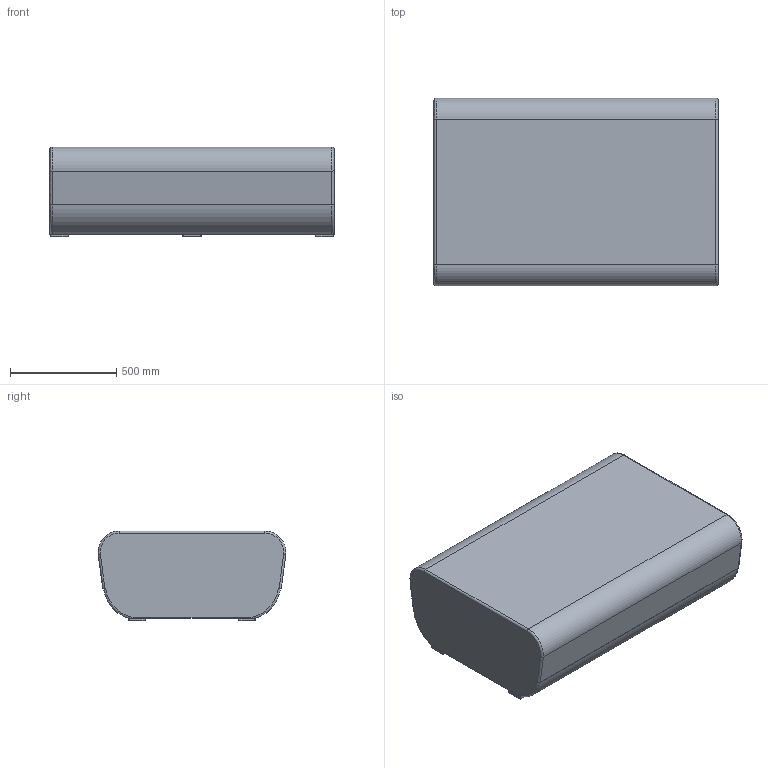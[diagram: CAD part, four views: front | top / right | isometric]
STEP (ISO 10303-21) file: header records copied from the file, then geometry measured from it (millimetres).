
FILE_DESCRIPTION(/* description */ (''),/* implementation_level */ '2;1');
FILE_NAME(/* name */ 'OPA051~1',/* time_stamp */ '2015-09-28T21:32:45+02:00',/* author */ (''),/* organization */ (''),/* preprocessor_version */ 'ST-DEVELOPER v15',/* originating_system */ '',/* authorisation */ '');
FILE_SCHEMA (('AUTOMOTIVE_DESIGN'));
Length unit declared in the file: millimetre
Products named in the file (1): Document
Bounding box: 1340 x 885.34 x 424 mm (x, y, z)
Volume: 506323.8 mm3; surface area: 3902538.8 mm2
Topology: 6 solids, 10 shells, 92 faces, 245 edges, 169 vertices
Faces by surface type: bspline 74, plane 18
Entity records: 3124 total; most frequent: CARTESIAN_POINT 1760, ORIENTED_EDGE 436, EDGE_CURVE 244, VERTEX_POINT 168, ADVANCED_FACE 92, FACE_OUTER_BOUND 92, EDGE_LOOP 92, B_SPLINE_CURVE_WITH_KNOTS 31
